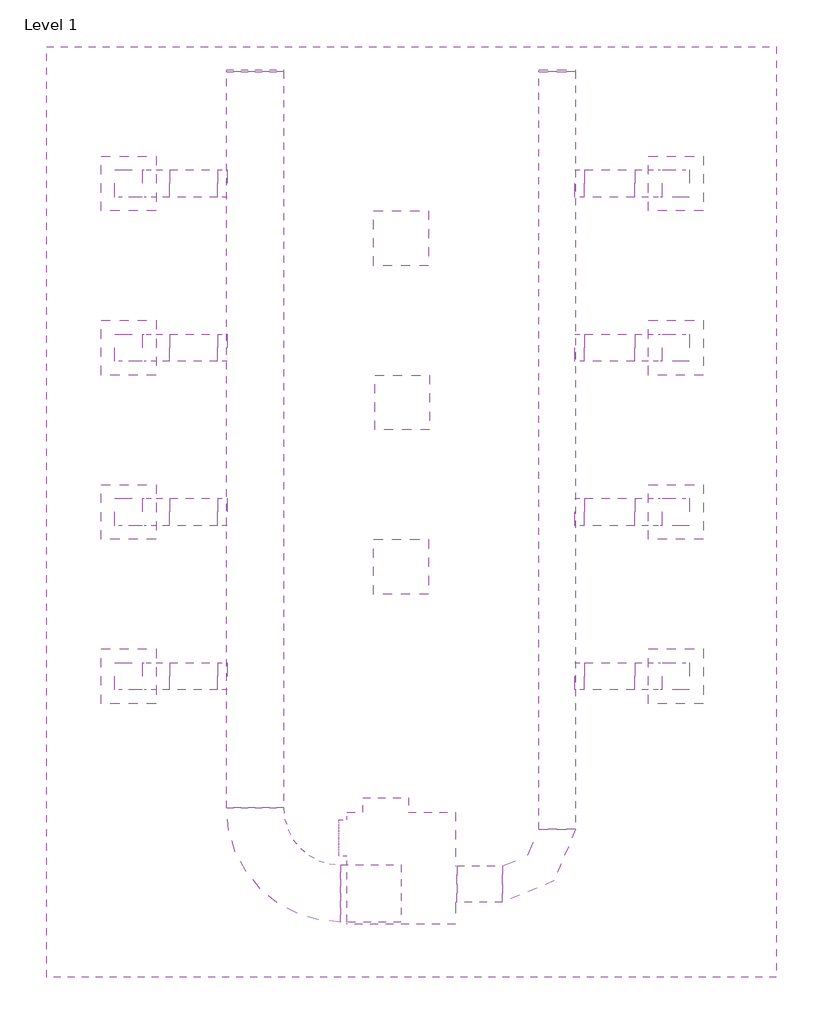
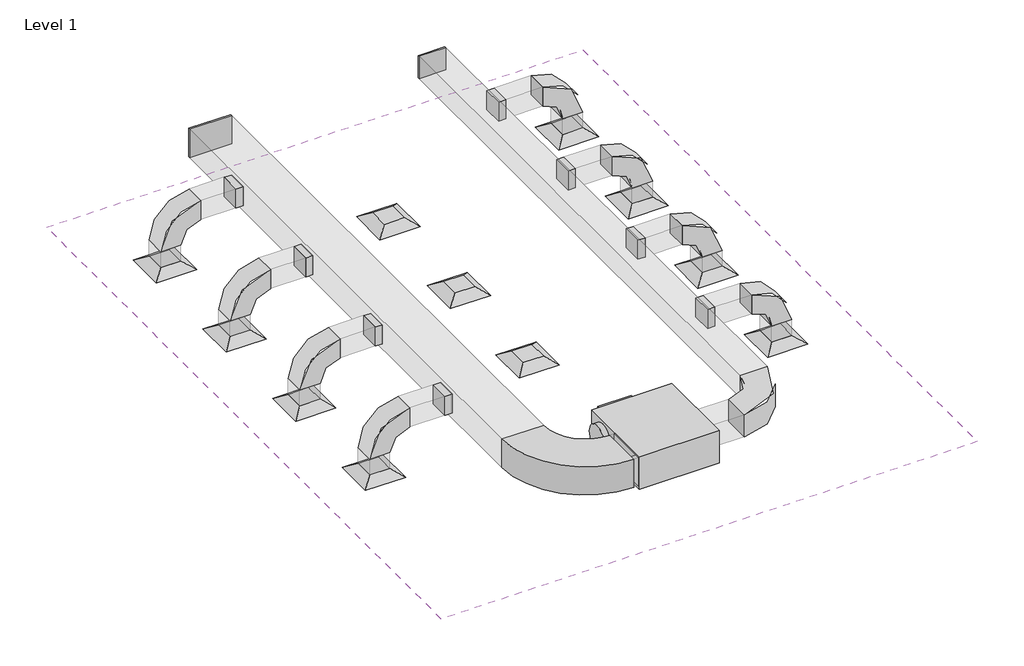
# One storey: 20 duct fittings, 20 duct segments, 11 air terminals, 1 covering, 1 proxy.
"""IFC4 building model written with IfcOpenShell, lengths in millimetres."""

from ifc_helpers import new_model, si_unit, frame, origin, place, context, project, spatial, polyline, outline, extrude, transform, mapped, element, save
from components import m_return_diffuser_600_x_600_face_300_x_300_connection_ff221211, m_vav_unit_parallel_fan_powered_size_6_400mm_inlet_587ab7bd, m_rectangular_elbow_radius_1_5_w_5757d774, m_rectangular_elbow_radius_1_5_w_36afd085, m_rectangular_elbow_radius_1_5_w_7230ff9a, m_rectangular_endcap_standard_04439c16, m_rectangular_endcap_standard_2ff29291, m_rectangular_takeoff_standard_cb0ccb98, m_rectangular_takeoff_standard_2be5eba1

model = new_model("IFC4")

# Units and contexts
model_context = context("Model", 3, world=origin())
ifc_project = project(units=[si_unit("LENGTHUNIT", "METRE", prefix="MILLI")], contexts=[model_context])

# Site, building, storey
site = spatial("IfcSite", under=ifc_project)
building = spatial("IfcBuilding", under=site)
storey = spatial("IfcBuildingStorey", under=building, Name="Level 1", Elevation=0.0)

# Air terminals
placement = place(None, origin())
m_return_diffuser_600_x_600_face_300_x_300_connection_shape = m_return_diffuser_600_x_600_face_300_x_300_connection_ff221211(model_context)
element("IfcAirTerminal", 1, ObjectType="M_Return Diffuser : 600 x 600 Face 300 x 300 Connection", at=placement, inside=storey, context=model_context, shape_type="MappedRepresentation", body=[
    mapped(m_return_diffuser_600_x_600_face_300_x_300_connection_shape, transform((-13782.5303668, 3995.7829227, 2400.0), x_axis=(1.0, 0.0, 0.0), y_axis=(0.0, 1.0, 0.0), z_axis=(0.0, 0.0, 1.0))),
])
element("IfcAirTerminal", 2, ObjectType="M_Return Diffuser : 600 x 600 Face 300 x 300 Connection", at=placement, inside=storey, context=model_context, shape_type="MappedRepresentation", body=[
    mapped(m_return_diffuser_600_x_600_face_300_x_300_connection_shape, transform((-13782.5303668, 2195.7829227, 2400.0), x_axis=(1.0, 0.0, 0.0), y_axis=(0.0, 1.0, 0.0), z_axis=(0.0, 0.0, 1.0))),
])
element("IfcAirTerminal", 3, ObjectType="M_Return Diffuser : 600 x 600 Face 300 x 300 Connection", at=placement, inside=storey, context=model_context, shape_type="MappedRepresentation", body=[
    mapped(m_return_diffuser_600_x_600_face_300_x_300_connection_shape, transform((-13782.5303668, 395.7829227, 2400.0), x_axis=(1.0, 0.0, 0.0), y_axis=(0.0, 1.0, 0.0), z_axis=(0.0, 0.0, 1.0))),
])
element("IfcAirTerminal", 4, ObjectType="M_Return Diffuser : 600 x 600 Face 300 x 300 Connection", at=placement, inside=storey, context=model_context, shape_type="MappedRepresentation", body=[
    mapped(m_return_diffuser_600_x_600_face_300_x_300_connection_shape, transform((-13782.5303668, -1404.2170773, 2400.0), x_axis=(1.0, 0.0, 0.0), y_axis=(0.0, 1.0, 0.0), z_axis=(0.0, 0.0, 1.0))),
])
element("IfcAirTerminal", 5, ObjectType="M_Return Diffuser : 600 x 600 Face 300 x 300 Connection", at=placement, inside=storey, context=model_context, shape_type="MappedRepresentation", body=[
    mapped(m_return_diffuser_600_x_600_face_300_x_300_connection_shape, transform((-10782.5303668, 1595.7829227, 2400.0), x_axis=(1.0, 0.0, 0.0), y_axis=(0.0, 1.0, 0.0), z_axis=(0.0, 0.0, 1.0))),
])
element("IfcAirTerminal", 6, ObjectType="M_Supply Diffuser : 600 x 600 Face 300 x 300 Connection", at=placement, inside=storey, context=model_context, shape_type="MappedRepresentation", body=[
    mapped(m_return_diffuser_600_x_600_face_300_x_300_connection_shape, transform((-7782.5303668, 3995.7829227, 2400.0), x_axis=(1.0, 0.0, 0.0), y_axis=(0.0, 1.0, 0.0), z_axis=(0.0, 0.0, 1.0))),
])
element("IfcAirTerminal", 7, ObjectType="M_Supply Diffuser : 600 x 600 Face 300 x 300 Connection", at=placement, inside=storey, context=model_context, shape_type="MappedRepresentation", body=[
    mapped(m_return_diffuser_600_x_600_face_300_x_300_connection_shape, transform((-7782.5303668, 2195.7829227, 2400.0), x_axis=(1.0, 0.0, 0.0), y_axis=(0.0, 1.0, 0.0), z_axis=(0.0, 0.0, 1.0))),
])
element("IfcAirTerminal", 8, ObjectType="M_Supply Diffuser : 600 x 600 Face 300 x 300 Connection", at=placement, inside=storey, context=model_context, shape_type="MappedRepresentation", body=[
    mapped(m_return_diffuser_600_x_600_face_300_x_300_connection_shape, transform((-7782.5303668, 395.7829227, 2400.0), x_axis=(1.0, 0.0, 0.0), y_axis=(0.0, 1.0, 0.0), z_axis=(0.0, 0.0, 1.0))),
])
element("IfcAirTerminal", 9, ObjectType="M_Supply Diffuser : 600 x 600 Face 300 x 300 Connection", at=placement, inside=storey, context=model_context, shape_type="MappedRepresentation", body=[
    mapped(m_return_diffuser_600_x_600_face_300_x_300_connection_shape, transform((-7782.5303668, -1404.2170773, 2400.0), x_axis=(1.0, 0.0, 0.0), y_axis=(0.0, 1.0, 0.0), z_axis=(0.0, 0.0, 1.0))),
])
element("IfcAirTerminal", 10, ObjectType="M_Supply Diffuser : 600 x 600 Face 300 x 300 Connection", at=placement, inside=storey, context=model_context, shape_type="MappedRepresentation", body=[
    mapped(m_return_diffuser_600_x_600_face_300_x_300_connection_shape, transform((-10795.0303668, -204.2170773, 2400.0), x_axis=(1.0, 0.0, 0.0), y_axis=(0.0, 1.0, 0.0), z_axis=(0.0, 0.0, 1.0))),
])
element("IfcAirTerminal", 11, ObjectType="M_Supply Diffuser : 600 x 600 Face 300 x 300 Connection", at=placement, inside=storey, context=model_context, shape_type="MappedRepresentation", body=[
    mapped(m_return_diffuser_600_x_600_face_300_x_300_connection_shape, transform((-10795.0303668, 3395.7829227, 2400.0), x_axis=(1.0, 0.0, 0.0), y_axis=(0.0, 1.0, 0.0), z_axis=(0.0, 0.0, 1.0))),
])

# Proxy
m_vav_unit_parallel_fan_powered_size_6_400mm_inlet_shape = m_vav_unit_parallel_fan_powered_size_6_400mm_inlet_587ab7bd(model_context)
element("IfcBuildingElementProxy", 12, Name="M_VAV Unit - Parallel Fan Powered : Size 6 - 400mm Inlet", ObjectType="M_VAV Unit - Parallel Fan Powered : Size 6 - 400mm Inlet", at=placement, inside=storey, context=model_context, shape_type="MappedRepresentation", body=[
    mapped(m_vav_unit_parallel_fan_powered_size_6_400mm_inlet_shape, transform((-10795.0303668, -3509.2170773, 3200.0), x_axis=(1.0, 0.0, 0.0), y_axis=(0.0, 1.0, 0.0), z_axis=(0.0, 0.0, 1.0))),
])

# Covering
element("IfcCovering", 13, ObjectType="600 x 600mm Grid", at=placement, inside=storey, context=model_context, shape_type="SweptSolid", body=[
    extrude(outline(polyline([(-6682.5303668, 5495.7829227), (-6682.5303668, -4704.2170773), (-14682.5303668, -4704.2170773), (-14682.5303668, 5495.7829227), (-6682.5303668, 5495.7829227)])), frame((0.0, 0.0, 2400.0), z_axis=(0.0, 0.0, 1.0), x_axis=(1.0, 0.0, 0.0)), (0.0, 0.0, 1.0), 52.0),
])

# Duct fittings
m_rectangular_elbow_radius_1_5_w_shape = m_rectangular_elbow_radius_1_5_w_5757d774(model_context)
element("IfcDuctFitting", 14, ObjectType="M_Rectangular Elbow - Radius : 1.5 W", at=placement, inside=storey, context=model_context, shape_type="MappedRepresentation", body=[
    mapped(m_rectangular_elbow_radius_1_5_w_shape, transform((-9085.0303668, -3681.7170773, 3200.0), x_axis=(1.0, 0.0, 0.0), y_axis=(0.0, 1.0, 0.0), z_axis=(0.0, 0.0, 1.0))),
])
m_rectangular_elbow_radius_1_5_w_2_shape = m_rectangular_elbow_radius_1_5_w_36afd085(model_context)
element("IfcDuctFitting", 15, ObjectType="M_Rectangular Elbow - Radius : 1.5 W", at=placement, inside=storey, context=model_context, shape_type="MappedRepresentation", body=[
    mapped(m_rectangular_elbow_radius_1_5_w_2_shape, transform((-12395.0303668, -3784.2170773, 3200.0), x_axis=(0.0, -1.0, 0.0), y_axis=(1.0, 0.0, 0.0), z_axis=(0.0, 0.0, 1.0))),
])
m_rectangular_elbow_radius_1_5_w_3_shape = m_rectangular_elbow_radius_1_5_w_7230ff9a(model_context)
element("IfcDuctFitting", 16, ObjectType="M_Rectangular Elbow - Radius : 1.5 W", at=placement, inside=storey, context=model_context, shape_type="MappedRepresentation", body=[
    mapped(m_rectangular_elbow_radius_1_5_w_3_shape, transform((-7782.5303668, 3995.7829227, 3200.0), x_axis=(1.0, 0.0, 0.0), y_axis=(0.0, 0.0, -1.0), z_axis=(0.0, 1.0, 0.0))),
])
element("IfcDuctFitting", 17, ObjectType="M_Rectangular Elbow - Radius : 1.5 W", at=placement, inside=storey, context=model_context, shape_type="MappedRepresentation", body=[
    mapped(m_rectangular_elbow_radius_1_5_w_3_shape, transform((-7782.5303668, 2195.7829227, 3200.0), x_axis=(1.0, 0.0, 0.0), y_axis=(0.0, 0.0, -1.0), z_axis=(0.0, 1.0, 0.0))),
])
element("IfcDuctFitting", 18, ObjectType="M_Rectangular Elbow - Radius : 1.5 W", at=placement, inside=storey, context=model_context, shape_type="MappedRepresentation", body=[
    mapped(m_rectangular_elbow_radius_1_5_w_3_shape, transform((-7782.5303668, 395.7829227, 3200.0), x_axis=(1.0, 0.0, 0.0), y_axis=(0.0, 0.0, -1.0), z_axis=(0.0, 1.0, 0.0))),
])
element("IfcDuctFitting", 19, ObjectType="M_Rectangular Elbow - Radius : 1.5 W", at=placement, inside=storey, context=model_context, shape_type="MappedRepresentation", body=[
    mapped(m_rectangular_elbow_radius_1_5_w_3_shape, transform((-7782.5303668, -1404.2170773, 3200.0), x_axis=(1.0, 0.0, 0.0), y_axis=(0.0, 0.0, -1.0), z_axis=(0.0, 1.0, 0.0))),
])
element("IfcDuctFitting", 20, ObjectType="M_Rectangular Elbow - Radius : 1.5 W", at=placement, inside=storey, context=model_context, shape_type="MappedRepresentation", body=[
    mapped(m_rectangular_elbow_radius_1_5_w_3_shape, transform((-13782.5303668, -1404.2170773, 3200.0), x_axis=(-1.0, 0.0, 0.0), y_axis=(0.0, 0.0, -1.0), z_axis=(0.0, -1.0, 0.0))),
])
element("IfcDuctFitting", 21, ObjectType="M_Rectangular Elbow - Radius : 1.5 W", at=placement, inside=storey, context=model_context, shape_type="MappedRepresentation", body=[
    mapped(m_rectangular_elbow_radius_1_5_w_3_shape, transform((-13782.5303668, 395.7829227, 3200.0), x_axis=(-1.0, 0.0, 0.0), y_axis=(0.0, 0.0, -1.0), z_axis=(0.0, -1.0, 0.0))),
])
element("IfcDuctFitting", 22, ObjectType="M_Rectangular Elbow - Radius : 1.5 W", at=placement, inside=storey, context=model_context, shape_type="MappedRepresentation", body=[
    mapped(m_rectangular_elbow_radius_1_5_w_3_shape, transform((-13782.5303668, 2195.7829227, 3200.0), x_axis=(-1.0, 0.0, 0.0), y_axis=(0.0, 0.0, -1.0), z_axis=(0.0, -1.0, 0.0))),
])
element("IfcDuctFitting", 23, ObjectType="M_Rectangular Elbow - Radius : 1.5 W", at=placement, inside=storey, context=model_context, shape_type="MappedRepresentation", body=[
    mapped(m_rectangular_elbow_radius_1_5_w_3_shape, transform((-13782.5303668, 3995.7829227, 3200.0), x_axis=(-1.0, 0.0, 0.0), y_axis=(0.0, 0.0, -1.0), z_axis=(0.0, -1.0, 0.0))),
])
m_rectangular_endcap_standard_shape = m_rectangular_endcap_standard_04439c16(model_context)
element("IfcDuctFitting", 24, ObjectType="M_Rectangular Endcap : Standard", at=placement, inside=storey, context=model_context, shape_type="MappedRepresentation", body=[
    mapped(m_rectangular_endcap_standard_shape, transform((-12395.0303668, 5218.2829227, 3200.0), x_axis=(0.0, 1.0, 0.0), y_axis=(-1.0, 0.0, 0.0), z_axis=(0.0, 0.0, 1.0))),
])
m_rectangular_endcap_standard_2_shape = m_rectangular_endcap_standard_2ff29291(model_context)
element("IfcDuctFitting", 25, ObjectType="M_Rectangular Endcap : Standard", at=placement, inside=storey, context=model_context, shape_type="MappedRepresentation", body=[
    mapped(m_rectangular_endcap_standard_2_shape, transform((-9085.0303668, 5218.2829227, 3200.0), x_axis=(0.0, 1.0, 0.0), y_axis=(-1.0, 0.0, 0.0), z_axis=(0.0, 0.0, 1.0))),
])
m_rectangular_takeoff_standard_shape = m_rectangular_takeoff_standard_cb0ccb98(model_context)
element("IfcDuctFitting", 26, ObjectType="M_Rectangular Takeoff : Standard", at=placement, inside=storey, context=model_context, shape_type="MappedRepresentation", body=[
    mapped(m_rectangular_takeoff_standard_shape, transform((-8885.0303668, 3995.7829227, 3200.0), x_axis=(1.0, 0.0, 0.0), y_axis=(0.0, -1.0, 0.0), z_axis=(0.0, 0.0, -1.0))),
])
element("IfcDuctFitting", 27, ObjectType="M_Rectangular Takeoff : Standard", at=placement, inside=storey, context=model_context, shape_type="MappedRepresentation", body=[
    mapped(m_rectangular_takeoff_standard_shape, transform((-8885.0303668, 2195.7829227, 3200.0), x_axis=(1.0, 0.0, 0.0), y_axis=(0.0, -1.0, 0.0), z_axis=(0.0, 0.0, -1.0))),
])
element("IfcDuctFitting", 28, ObjectType="M_Rectangular Takeoff : Standard", at=placement, inside=storey, context=model_context, shape_type="MappedRepresentation", body=[
    mapped(m_rectangular_takeoff_standard_shape, transform((-8885.0303668, 395.7829227, 3200.0), x_axis=(1.0, 0.0, 0.0), y_axis=(0.0, -1.0, 0.0), z_axis=(0.0, 0.0, -1.0))),
])
element("IfcDuctFitting", 29, ObjectType="M_Rectangular Takeoff : Standard", at=placement, inside=storey, context=model_context, shape_type="MappedRepresentation", body=[
    mapped(m_rectangular_takeoff_standard_shape, transform((-8885.0303668, -1404.2170773, 3200.0), x_axis=(1.0, 0.0, 0.0), y_axis=(0.0, -1.0, 0.0), z_axis=(0.0, 0.0, -1.0))),
])
m_rectangular_takeoff_standard_2_shape = m_rectangular_takeoff_standard_2be5eba1(model_context)
element("IfcDuctFitting", 30, ObjectType="M_Rectangular Takeoff : Standard", at=placement, inside=storey, context=model_context, shape_type="MappedRepresentation", body=[
    mapped(m_rectangular_takeoff_standard_2_shape, transform((-12707.5303668, -1404.2170773, 3200.0), x_axis=(-1.0, 0.0, 0.0), y_axis=(0.0, 1.0, 0.0), z_axis=(0.0, 0.0, -1.0))),
])
element("IfcDuctFitting", 31, ObjectType="M_Rectangular Takeoff : Standard", at=placement, inside=storey, context=model_context, shape_type="MappedRepresentation", body=[
    mapped(m_rectangular_takeoff_standard_2_shape, transform((-12707.5303668, 395.7829227, 3200.0), x_axis=(-1.0, 0.0, 0.0), y_axis=(0.0, 1.0, 0.0), z_axis=(0.0, 0.0, -1.0))),
])
element("IfcDuctFitting", 32, ObjectType="M_Rectangular Takeoff : Standard", at=placement, inside=storey, context=model_context, shape_type="MappedRepresentation", body=[
    mapped(m_rectangular_takeoff_standard_2_shape, transform((-12707.5303668, 2195.7829227, 3200.0), x_axis=(-1.0, 0.0, 0.0), y_axis=(0.0, 1.0, 0.0), z_axis=(0.0, 0.0, -1.0))),
])
element("IfcDuctFitting", 33, ObjectType="M_Rectangular Takeoff : Standard", at=placement, inside=storey, context=model_context, shape_type="MappedRepresentation", body=[
    mapped(m_rectangular_takeoff_standard_2_shape, transform((-12707.5303668, 3995.7829227, 3200.0), x_axis=(-1.0, 0.0, 0.0), y_axis=(0.0, 1.0, 0.0), z_axis=(0.0, 0.0, -1.0))),
])

# Duct segments
element("IfcDuctSegment", 34, ObjectType="Radius Elbows / Taps", at=placement, inside=storey, context=model_context, shape_type="SweptSolid", body=[
    extrude(outline(polyline([(-10185.0303668, -3881.7170773), (-10185.0303668, -3481.7170773), (-9685.0303668, -3481.7170773), (-9685.0303668, -3881.7170773), (-10185.0303668, -3881.7170773)])), frame((0.0, 0.0, 3025.0), z_axis=(0.0, 0.0, 1.0), x_axis=(1.0, 0.0, 0.0)), (0.0, 0.0, 1.0), 350.0),
])
element("IfcDuctSegment", 35, ObjectType="Radius Elbows / Taps", at=placement, inside=storey, context=model_context, shape_type="SweptSolid", body=[
    extrude(outline(polyline([(-8885.0303668, -3081.7170773), (-9285.0303668, -3081.7170773), (-9285.0303668, 5218.2829227), (-8885.0303668, 5218.2829227), (-8885.0303668, -3081.7170773)])), frame((0.0, 0.0, 3025.0), z_axis=(0.0, 0.0, 1.0), x_axis=(1.0, 0.0, 0.0)), (0.0, 0.0, 1.0), 350.0),
])
element("IfcDuctSegment", 36, ObjectType="Radius Elbows / Taps", at=placement, inside=storey, context=model_context, shape_type="SweptSolid", body=[
    extrude(outline(polyline([(-10795.0303668, -3471.7170773), (-10795.0303668, -4096.7170773), (-11457.5303668, -4096.7170773), (-11457.5303668, -3471.7170773), (-10795.0303668, -3471.7170773)])), frame((0.0, 0.0, 2977.5), z_axis=(0.0, 0.0, 1.0), x_axis=(1.0, 0.0, 0.0)), (0.0, 0.0, 1.0), 445.0),
])
element("IfcDuctSegment", 37, ObjectType="Radius Elbows / Taps", at=placement, inside=storey, context=model_context, shape_type="SweptSolid", body=[
    extrude(outline(polyline([(-12082.5303668, -2846.7170773), (-12707.5303668, -2846.7170773), (-12707.5303668, 5218.2829227), (-12082.5303668, 5218.2829227), (-12082.5303668, -2846.7170773)])), frame((0.0, 0.0, 2977.5), z_axis=(0.0, 0.0, 1.0), x_axis=(1.0, 0.0, 0.0)), (0.0, 0.0, 1.0), 445.0),
])
element("IfcDuctSegment", 38, ObjectType="Radius Elbows / Taps", at=placement, inside=storey, context=model_context, shape_type="SweptSolid", body=[
    extrude(outline(polyline([(-7632.5303668, 3845.7829227), (-7932.5303668, 3845.7829227), (-7932.5303668, 4145.7829227), (-7632.5303668, 4145.7829227), (-7632.5303668, 3845.7829227)])), frame((0.0, 0.0, 2501.6), z_axis=(0.0, 0.0, 1.0), x_axis=(1.0, 0.0, 0.0)), (0.0, 0.0, 1.0), 248.4),
])
element("IfcDuctSegment", 39, ObjectType="Radius Elbows / Taps", at=placement, inside=storey, context=model_context, shape_type="SweptSolid", body=[
    extrude(outline(polyline([(-8783.4303668, 3845.7829227), (-8783.4303668, 4145.7829227), (-8232.5303668, 4145.7829227), (-8232.5303668, 3845.7829227), (-8783.4303668, 3845.7829227)])), frame((0.0, 0.0, 3050.0), z_axis=(0.0, 0.0, 1.0), x_axis=(1.0, 0.0, 0.0)), (0.0, 0.0, 1.0), 300.0),
])
element("IfcDuctSegment", 40, ObjectType="Radius Elbows / Taps", at=placement, inside=storey, context=model_context, shape_type="SweptSolid", body=[
    extrude(outline(polyline([(-7632.5303668, 2045.7829227), (-7932.5303668, 2045.7829227), (-7932.5303668, 2345.7829227), (-7632.5303668, 2345.7829227), (-7632.5303668, 2045.7829227)])), frame((0.0, 0.0, 2501.6), z_axis=(0.0, 0.0, 1.0), x_axis=(1.0, 0.0, 0.0)), (0.0, 0.0, 1.0), 248.4),
])
element("IfcDuctSegment", 41, ObjectType="Radius Elbows / Taps", at=placement, inside=storey, context=model_context, shape_type="SweptSolid", body=[
    extrude(outline(polyline([(-8783.4303668, 2045.7829227), (-8783.4303668, 2345.7829227), (-8232.5303668, 2345.7829227), (-8232.5303668, 2045.7829227), (-8783.4303668, 2045.7829227)])), frame((0.0, 0.0, 3050.0), z_axis=(0.0, 0.0, 1.0), x_axis=(1.0, 0.0, 0.0)), (0.0, 0.0, 1.0), 300.0),
])
element("IfcDuctSegment", 42, ObjectType="Radius Elbows / Taps", at=placement, inside=storey, context=model_context, shape_type="SweptSolid", body=[
    extrude(outline(polyline([(-7632.5303668, 245.7829227), (-7932.5303668, 245.7829227), (-7932.5303668, 545.7829227), (-7632.5303668, 545.7829227), (-7632.5303668, 245.7829227)])), frame((0.0, 0.0, 2501.6), z_axis=(0.0, 0.0, 1.0), x_axis=(1.0, 0.0, 0.0)), (0.0, 0.0, 1.0), 248.4),
])
element("IfcDuctSegment", 43, ObjectType="Radius Elbows / Taps", at=placement, inside=storey, context=model_context, shape_type="SweptSolid", body=[
    extrude(outline(polyline([(-8783.4303668, 245.7829227), (-8783.4303668, 545.7829227), (-8232.5303668, 545.7829227), (-8232.5303668, 245.7829227), (-8783.4303668, 245.7829227)])), frame((0.0, 0.0, 3050.0), z_axis=(0.0, 0.0, 1.0), x_axis=(1.0, 0.0, 0.0)), (0.0, 0.0, 1.0), 300.0),
])
element("IfcDuctSegment", 44, ObjectType="Radius Elbows / Taps", at=placement, inside=storey, context=model_context, shape_type="SweptSolid", body=[
    extrude(outline(polyline([(-7632.5303668, -1554.2170773), (-7932.5303668, -1554.2170773), (-7932.5303668, -1254.2170773), (-7632.5303668, -1254.2170773), (-7632.5303668, -1554.2170773)])), frame((0.0, 0.0, 2501.6), z_axis=(0.0, 0.0, 1.0), x_axis=(1.0, 0.0, 0.0)), (0.0, 0.0, 1.0), 248.4),
])
element("IfcDuctSegment", 45, ObjectType="Radius Elbows / Taps", at=placement, inside=storey, context=model_context, shape_type="SweptSolid", body=[
    extrude(outline(polyline([(-8783.4303668, -1554.2170773), (-8783.4303668, -1254.2170773), (-8232.5303668, -1254.2170773), (-8232.5303668, -1554.2170773), (-8783.4303668, -1554.2170773)])), frame((0.0, 0.0, 3050.0), z_axis=(0.0, 0.0, 1.0), x_axis=(1.0, 0.0, 0.0)), (0.0, 0.0, 1.0), 300.0),
])
element("IfcDuctSegment", 46, ObjectType="Radius Elbows / Taps", at=placement, inside=storey, context=model_context, shape_type="SweptSolid", body=[
    extrude(outline(polyline([(-13632.5303668, -1554.2170773), (-13932.5303668, -1554.2170773), (-13932.5303668, -1254.2170773), (-13632.5303668, -1254.2170773), (-13632.5303668, -1554.2170773)])), frame((0.0, 0.0, 2501.6), z_axis=(0.0, 0.0, 1.0), x_axis=(1.0, 0.0, 0.0)), (0.0, 0.0, 1.0), 248.4),
])
element("IfcDuctSegment", 47, ObjectType="Radius Elbows / Taps", at=placement, inside=storey, context=model_context, shape_type="SweptSolid", body=[
    extrude(outline(polyline([(-12809.1303668, -1254.2170773), (-12809.1303668, -1554.2170773), (-13332.5303668, -1554.2170773), (-13332.5303668, -1254.2170773), (-12809.1303668, -1254.2170773)])), frame((0.0, 0.0, 3050.0), z_axis=(0.0, 0.0, 1.0), x_axis=(1.0, 0.0, 0.0)), (0.0, 0.0, 1.0), 300.0),
])
element("IfcDuctSegment", 48, ObjectType="Radius Elbows / Taps", at=placement, inside=storey, context=model_context, shape_type="SweptSolid", body=[
    extrude(outline(polyline([(-13632.5303668, 245.7829227), (-13932.5303668, 245.7829227), (-13932.5303668, 545.7829227), (-13632.5303668, 545.7829227), (-13632.5303668, 245.7829227)])), frame((0.0, 0.0, 2501.6), z_axis=(0.0, 0.0, 1.0), x_axis=(1.0, 0.0, 0.0)), (0.0, 0.0, 1.0), 248.4),
])
element("IfcDuctSegment", 49, ObjectType="Radius Elbows / Taps", at=placement, inside=storey, context=model_context, shape_type="SweptSolid", body=[
    extrude(outline(polyline([(-12809.1303668, 545.7829227), (-12809.1303668, 245.7829227), (-13332.5303668, 245.7829227), (-13332.5303668, 545.7829227), (-12809.1303668, 545.7829227)])), frame((0.0, 0.0, 3050.0), z_axis=(0.0, 0.0, 1.0), x_axis=(1.0, 0.0, 0.0)), (0.0, 0.0, 1.0), 300.0),
])
element("IfcDuctSegment", 50, ObjectType="Radius Elbows / Taps", at=placement, inside=storey, context=model_context, shape_type="SweptSolid", body=[
    extrude(outline(polyline([(-13632.5303668, 2045.7829227), (-13932.5303668, 2045.7829227), (-13932.5303668, 2345.7829227), (-13632.5303668, 2345.7829227), (-13632.5303668, 2045.7829227)])), frame((0.0, 0.0, 2501.6), z_axis=(0.0, 0.0, 1.0), x_axis=(1.0, 0.0, 0.0)), (0.0, 0.0, 1.0), 248.4),
])
element("IfcDuctSegment", 51, ObjectType="Radius Elbows / Taps", at=placement, inside=storey, context=model_context, shape_type="SweptSolid", body=[
    extrude(outline(polyline([(-12809.1303668, 2345.7829227), (-12809.1303668, 2045.7829227), (-13332.5303668, 2045.7829227), (-13332.5303668, 2345.7829227), (-12809.1303668, 2345.7829227)])), frame((0.0, 0.0, 3050.0), z_axis=(0.0, 0.0, 1.0), x_axis=(1.0, 0.0, 0.0)), (0.0, 0.0, 1.0), 300.0),
])
element("IfcDuctSegment", 52, ObjectType="Radius Elbows / Taps", at=placement, inside=storey, context=model_context, shape_type="SweptSolid", body=[
    extrude(outline(polyline([(-13632.5303668, 3845.7829227), (-13932.5303668, 3845.7829227), (-13932.5303668, 4145.7829227), (-13632.5303668, 4145.7829227), (-13632.5303668, 3845.7829227)])), frame((0.0, 0.0, 2501.6), z_axis=(0.0, 0.0, 1.0), x_axis=(1.0, 0.0, 0.0)), (0.0, 0.0, 1.0), 248.4),
])
element("IfcDuctSegment", 53, ObjectType="Radius Elbows / Taps", at=placement, inside=storey, context=model_context, shape_type="SweptSolid", body=[
    extrude(outline(polyline([(-12809.1303668, 4145.7829227), (-12809.1303668, 3845.7829227), (-13332.5303668, 3845.7829227), (-13332.5303668, 4145.7829227), (-12809.1303668, 4145.7829227)])), frame((0.0, 0.0, 3050.0), z_axis=(0.0, 0.0, 1.0), x_axis=(1.0, 0.0, 0.0)), (0.0, 0.0, 1.0), 300.0),
])

save(model, "model.ifc")
